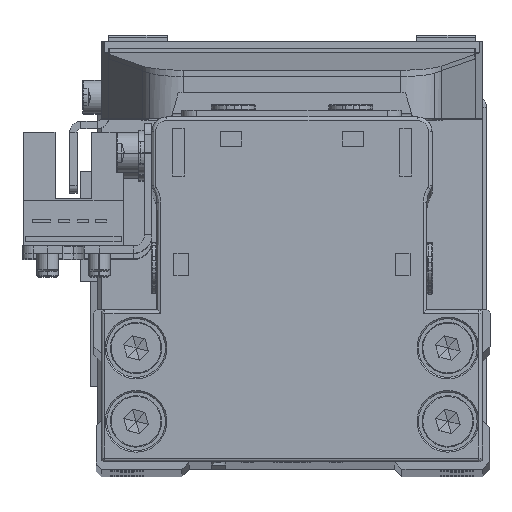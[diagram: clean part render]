
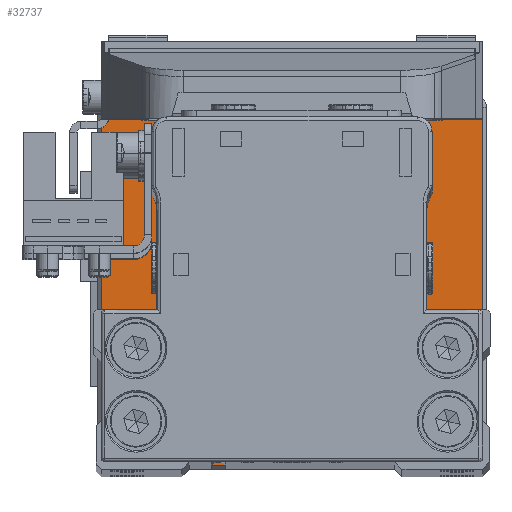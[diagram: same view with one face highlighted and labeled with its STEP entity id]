
A CAD part, top view. The second image highlights one B-rep face of the part: STEP entity #32737.
In plain terms, the highlighted planar face has unit normal (0, 0, 1).
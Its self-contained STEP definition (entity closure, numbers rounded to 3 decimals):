
#195 = CARTESIAN_POINT ( 'NONE',  ( -18.85, 19.95, 6.5 ) ) ;
#463 = CARTESIAN_POINT ( 'NONE',  ( 0., 0., 6.5 ) ) ;
#559 = ORIENTED_EDGE ( 'NONE', *, *, #27919, .T. ) ;
#717 = DIRECTION ( 'NONE',  ( 0., 0., -1. ) ) ;
#795 = DIRECTION ( 'NONE',  ( 0., 0., 1. ) ) ;
#1163 = DIRECTION ( 'NONE',  ( 0., 0., 1. ) ) ;
#1946 = CIRCLE ( 'NONE', #25699, 2.4 ) ;
#2382 = DIRECTION ( 'NONE',  ( 0., 0., -1. ) ) ;
#2519 = LINE ( 'NONE', #13084, #15889 ) ;
#2745 = VERTEX_POINT ( 'NONE', #4320 ) ;
#2814 = EDGE_CURVE ( 'NONE', #21676, #14701, #21843, .T. ) ;
#3044 = FACE_BOUND ( 'NONE', #17694, .T. ) ;
#3459 = DIRECTION ( 'NONE',  ( 0., -1., 0. ) ) ;
#3556 = DIRECTION ( 'NONE',  ( 0., 1., 0. ) ) ;
#4057 = EDGE_LOOP ( 'NONE', ( #18120, #17461 ) ) ;
#4320 = CARTESIAN_POINT ( 'NONE',  ( 25., -24.95, 6.5 ) ) ;
#4385 = EDGE_LOOP ( 'NONE', ( #29887, #27391, #22061, #31711, #24757, #19624, #559, #5477 ) ) ;
#4468 = DIRECTION ( 'NONE',  ( 0., 0., -1. ) ) ;
#4661 = DIRECTION ( 'NONE',  ( 0., 0., -1. ) ) ;
#4731 = EDGE_CURVE ( 'NONE', #20188, #17205, #2519, .T. ) ;
#4857 = AXIS2_PLACEMENT_3D ( 'NONE', #24508, #795, #11336 ) ;
#4894 = EDGE_CURVE ( 'NONE', #17205, #9137, #19776, .T. ) ;
#4906 = EDGE_CURVE ( 'NONE', #10971, #23178, #16709, .T. ) ;
#5392 = CARTESIAN_POINT ( 'NONE',  ( -23.65, 19.95, 6.5 ) ) ;
#5477 = ORIENTED_EDGE ( 'NONE', *, *, #4731, .T. ) ;
#5540 = CARTESIAN_POINT ( 'NONE',  ( 25., -24.95, 6.5 ) ) ;
#5656 = FACE_BOUND ( 'NONE', #29496, .T. ) ;
#5703 = AXIS2_PLACEMENT_3D ( 'NONE', #28171, #4468, #15025 ) ;
#5714 = CARTESIAN_POINT ( 'NONE',  ( -26., 23.95, 6.5 ) ) ;
#5757 = VERTEX_POINT ( 'NONE', #5392 ) ;
#5846 = DIRECTION ( 'NONE',  ( -1., 0., 0. ) ) ;
#5884 = EDGE_CURVE ( 'NONE', #32801, #12990, #6335, .T. ) ;
#5923 = CARTESIAN_POINT ( 'NONE',  ( -26., -23.95, 6.5 ) ) ;
#5955 = CARTESIAN_POINT ( 'NONE',  ( 25., 24.95, 6.5 ) ) ;
#6335 = CIRCLE ( 'NONE', #25662, 2.4 ) ;
#6773 = DIRECTION ( 'NONE',  ( 0., 0., 1. ) ) ;
#7864 = DIRECTION ( 'NONE',  ( 0., 0., -1. ) ) ;
#8299 = AXIS2_PLACEMENT_3D ( 'NONE', #11533, #22094, #32651 ) ;
#8446 = EDGE_CURVE ( 'NONE', #2745, #10971, #28381, .T. ) ;
#8787 = VECTOR ( 'NONE', #3556, 1000. ) ;
#8938 = DIRECTION ( 'NONE',  ( 1., 0., 0. ) ) ;
#9137 = VERTEX_POINT ( 'NONE', #5714 ) ;
#9199 = EDGE_CURVE ( 'NONE', #9137, #13530, #16586, .T. ) ;
#9370 = VERTEX_POINT ( 'NONE', #17452 ) ;
#9491 = AXIS2_PLACEMENT_3D ( 'NONE', #463, #11004, #21570 ) ;
#9863 = CARTESIAN_POINT ( 'NONE',  ( 18.85, 9.95, 6.5 ) ) ;
#9891 = DIRECTION ( 'NONE',  ( -1., 0., 0. ) ) ;
#10188 = ORIENTED_EDGE ( 'NONE', *, *, #2814, .T. ) ;
#10257 = AXIS2_PLACEMENT_3D ( 'NONE', #22082, #32636, #8938 ) ;
#10289 = CIRCLE ( 'NONE', #29635, 2.4 ) ;
#10971 = VERTEX_POINT ( 'NONE', #20992 ) ;
#11004 = DIRECTION ( 'NONE',  ( 0., 0., 1. ) ) ;
#11255 = DIRECTION ( 'NONE',  ( -1., 0., 0. ) ) ;
#11336 = DIRECTION ( 'NONE',  ( 1., 0., 0. ) ) ;
#11345 = CARTESIAN_POINT ( 'NONE',  ( 18.85, 19.95, 6.5 ) ) ;
#11425 = AXIS2_PLACEMENT_3D ( 'NONE', #18999, #29550, #5846 ) ;
#11533 = CARTESIAN_POINT ( 'NONE',  ( 21.25, 19.95, 6.5 ) ) ;
#11719 = DIRECTION ( 'NONE',  ( 1., 0., 0. ) ) ;
#11881 = CARTESIAN_POINT ( 'NONE',  ( -25., -24.95, 6.5 ) ) ;
#11995 = ORIENTED_EDGE ( 'NONE', *, *, #26894, .T. ) ;
#12432 = CARTESIAN_POINT ( 'NONE',  ( -25., 24.95, 6.5 ) ) ;
#12735 = VERTEX_POINT ( 'NONE', #11881 ) ;
#12934 = DIRECTION ( 'NONE',  ( -1., 0., 0. ) ) ;
#12990 = VERTEX_POINT ( 'NONE', #29160 ) ;
#13084 = CARTESIAN_POINT ( 'NONE',  ( -25., 24.95, 6.5 ) ) ;
#13457 = AXIS2_PLACEMENT_3D ( 'NONE', #24870, #1163, #11719 ) ;
#13530 = VERTEX_POINT ( 'NONE', #5923 ) ;
#13576 = EDGE_LOOP ( 'NONE', ( #10188, #22809 ) ) ;
#13603 = FACE_OUTER_BOUND ( 'NONE', #4385, .T. ) ;
#14511 = AXIS2_PLACEMENT_3D ( 'NONE', #30491, #6773, #17325 ) ;
#14701 = VERTEX_POINT ( 'NONE', #21537 ) ;
#15025 = DIRECTION ( 'NONE',  ( -1., 0., 0. ) ) ;
#15207 = DIRECTION ( 'NONE',  ( -1., 0., 0. ) ) ;
#15326 = EDGE_CURVE ( 'NONE', #13530, #12735, #29412, .T. ) ;
#15889 = VECTOR ( 'NONE', #23642, 1000. ) ;
#16093 = DIRECTION ( 'NONE',  ( 1., 0., 0. ) ) ;
#16208 = FACE_BOUND ( 'NONE', #4057, .T. ) ;
#16586 = LINE ( 'NONE', #27164, #31445 ) ;
#16709 = LINE ( 'NONE', #27274, #8787 ) ;
#16937 = EDGE_CURVE ( 'NONE', #12735, #2745, #29247, .T. ) ;
#17205 = VERTEX_POINT ( 'NONE', #12432 ) ;
#17309 = CIRCLE ( 'NONE', #21741, 2.4 ) ;
#17325 = DIRECTION ( 'NONE',  ( 1., 0., 0. ) ) ;
#17443 = EDGE_CURVE ( 'NONE', #9370, #20877, #26338, .T. ) ;
#17452 = CARTESIAN_POINT ( 'NONE',  ( 23.65, 9.95, 6.5 ) ) ;
#17461 = ORIENTED_EDGE ( 'NONE', *, *, #17443, .T. ) ;
#17694 = EDGE_LOOP ( 'NONE', ( #11995, #31599 ) ) ;
#18120 = ORIENTED_EDGE ( 'NONE', *, *, #22768, .T. ) ;
#18220 = VERTEX_POINT ( 'NONE', #195 ) ;
#18423 = DIRECTION ( 'NONE',  ( -1., 0., 0. ) ) ;
#18806 = CIRCLE ( 'NONE', #8299, 2.4 ) ;
#18999 = CARTESIAN_POINT ( 'NONE',  ( 21.25, 9.95, 6.5 ) ) ;
#19624 = ORIENTED_EDGE ( 'NONE', *, *, #4906, .T. ) ;
#19776 = CIRCLE ( 'NONE', #4857, 1. ) ;
#20188 = VERTEX_POINT ( 'NONE', #5955 ) ;
#20624 = CIRCLE ( 'NONE', #5703, 2.4 ) ;
#20877 = VERTEX_POINT ( 'NONE', #9863 ) ;
#20992 = CARTESIAN_POINT ( 'NONE',  ( 26., -23.95, 6.5 ) ) ;
#21537 = CARTESIAN_POINT ( 'NONE',  ( -18.85, 9.95, 6.5 ) ) ;
#21570 = DIRECTION ( 'NONE',  ( 1., 0., 0. ) ) ;
#21676 = VERTEX_POINT ( 'NONE', #30392 ) ;
#21741 = AXIS2_PLACEMENT_3D ( 'NONE', #26084, #2382, #12934 ) ;
#21843 = CIRCLE ( 'NONE', #26252, 2.4 ) ;
#22061 = ORIENTED_EDGE ( 'NONE', *, *, #15326, .T. ) ;
#22082 = CARTESIAN_POINT ( 'NONE',  ( 25., 23.95, 6.5 ) ) ;
#22094 = DIRECTION ( 'NONE',  ( 0., 0., -1. ) ) ;
#22676 = EDGE_CURVE ( 'NONE', #18220, #5757, #20624, .T. ) ;
#22768 = EDGE_CURVE ( 'NONE', #20877, #9370, #17309, .T. ) ;
#22809 = ORIENTED_EDGE ( 'NONE', *, *, #25949, .T. ) ;
#22985 = EDGE_CURVE ( 'NONE', #12990, #32801, #18806, .T. ) ;
#23063 = CARTESIAN_POINT ( 'NONE',  ( -21.25, 9.95, 6.5 ) ) ;
#23178 = VERTEX_POINT ( 'NONE', #28362 ) ;
#23642 = DIRECTION ( 'NONE',  ( -1., 0., 0. ) ) ;
#23751 = ORIENTED_EDGE ( 'NONE', *, *, #22985, .T. ) ;
#24177 = PLANE ( 'NONE',  #9491 ) ;
#24421 = CARTESIAN_POINT ( 'NONE',  ( 21.25, 19.95, 6.5 ) ) ;
#24508 = CARTESIAN_POINT ( 'NONE',  ( -25., 23.95, 6.5 ) ) ;
#24757 = ORIENTED_EDGE ( 'NONE', *, *, #8446, .T. ) ;
#24870 = CARTESIAN_POINT ( 'NONE',  ( 25., -23.95, 6.5 ) ) ;
#25197 = CIRCLE ( 'NONE', #10257, 1. ) ;
#25662 = AXIS2_PLACEMENT_3D ( 'NONE', #24421, #717, #11255 ) ;
#25699 = AXIS2_PLACEMENT_3D ( 'NONE', #23063, #33615, #9891 ) ;
#25949 = EDGE_CURVE ( 'NONE', #14701, #21676, #1946, .T. ) ;
#26084 = CARTESIAN_POINT ( 'NONE',  ( 21.25, 9.95, 6.5 ) ) ;
#26252 = AXIS2_PLACEMENT_3D ( 'NONE', #28367, #4661, #15207 ) ;
#26338 = CIRCLE ( 'NONE', #11425, 2.4 ) ;
#26759 = FACE_BOUND ( 'NONE', #13576, .T. ) ;
#26894 = EDGE_CURVE ( 'NONE', #5757, #18220, #10289, .T. ) ;
#27164 = CARTESIAN_POINT ( 'NONE',  ( -26., -23.95, 6.5 ) ) ;
#27274 = CARTESIAN_POINT ( 'NONE',  ( 26., 23.95, 6.5 ) ) ;
#27391 = ORIENTED_EDGE ( 'NONE', *, *, #9199, .T. ) ;
#27919 = EDGE_CURVE ( 'NONE', #23178, #20188, #25197, .T. ) ;
#28171 = CARTESIAN_POINT ( 'NONE',  ( -21.25, 19.95, 6.5 ) ) ;
#28362 = CARTESIAN_POINT ( 'NONE',  ( 26., 23.95, 6.5 ) ) ;
#28367 = CARTESIAN_POINT ( 'NONE',  ( -21.25, 9.95, 6.5 ) ) ;
#28381 = CIRCLE ( 'NONE', #13457, 1. ) ;
#29160 = CARTESIAN_POINT ( 'NONE',  ( 23.65, 19.95, 6.5 ) ) ;
#29247 = LINE ( 'NONE', #5540, #32290 ) ;
#29412 = CIRCLE ( 'NONE', #14511, 1. ) ;
#29496 = EDGE_LOOP ( 'NONE', ( #29675, #23751 ) ) ;
#29550 = DIRECTION ( 'NONE',  ( 0., 0., -1. ) ) ;
#29635 = AXIS2_PLACEMENT_3D ( 'NONE', #31570, #7864, #18423 ) ;
#29675 = ORIENTED_EDGE ( 'NONE', *, *, #5884, .T. ) ;
#29887 = ORIENTED_EDGE ( 'NONE', *, *, #4894, .T. ) ;
#30392 = CARTESIAN_POINT ( 'NONE',  ( -23.65, 9.95, 6.5 ) ) ;
#30491 = CARTESIAN_POINT ( 'NONE',  ( -25., -23.95, 6.5 ) ) ;
#31445 = VECTOR ( 'NONE', #3459, 1000. ) ;
#31570 = CARTESIAN_POINT ( 'NONE',  ( -21.25, 19.95, 6.5 ) ) ;
#31599 = ORIENTED_EDGE ( 'NONE', *, *, #22676, .T. ) ;
#31711 = ORIENTED_EDGE ( 'NONE', *, *, #16937, .T. ) ;
#32290 = VECTOR ( 'NONE', #16093, 1000. ) ;
#32636 = DIRECTION ( 'NONE',  ( 0., 0., 1. ) ) ;
#32651 = DIRECTION ( 'NONE',  ( -1., 0., 0. ) ) ;
#32737 = ADVANCED_FACE ( 'NONE', ( #5656, #16208, #26759, #3044, #13603 ), #24177, .T. ) ;
#32801 = VERTEX_POINT ( 'NONE', #11345 ) ;
#33615 = DIRECTION ( 'NONE',  ( 0., 0., -1. ) ) ;
